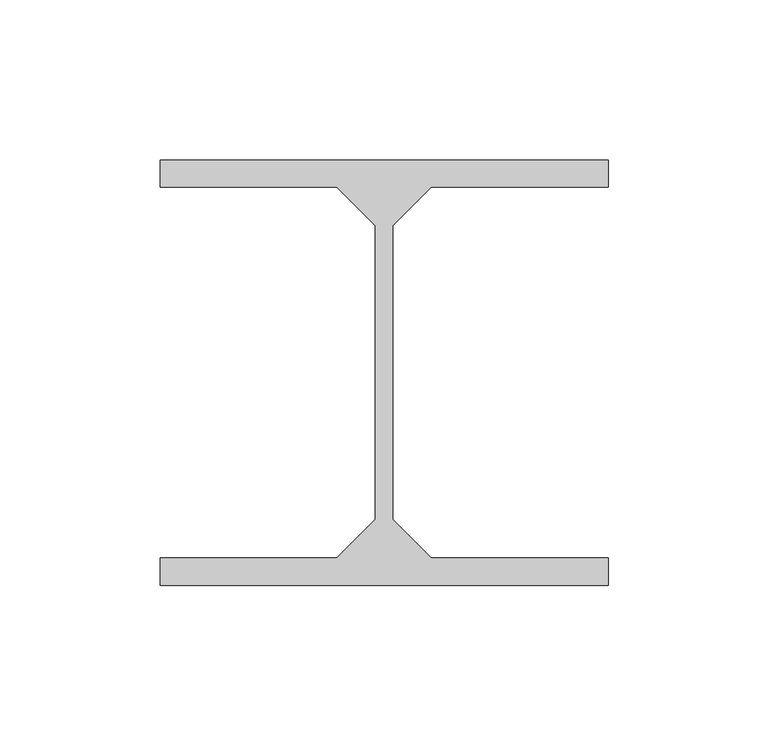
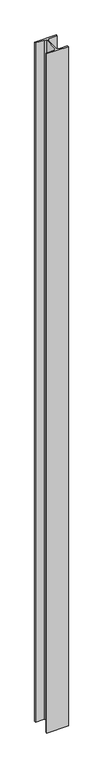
"""IFC4 building model written with IfcOpenShell, lengths in millimetres: beam geometry, Potelet : Potelet."""

from ifc_helpers import new_model, si_unit, frame, origin, place, context, project, spatial, polyline, outline, extrude, source, transform, mapped, element, save


def beam_d4a0480b(model_context):
    return source(origin(), model_context, "Body", "SweptSolid", [
        extrude(outline(polyline([(3642.4999999, -12733.5), (3782.4999999, -12733.5), (3782.4999999, -12742.0), (3727.2499999, -12742.0), (3715.2499999, -12754.0), (3715.2499999, -12846.0), (3727.2499999, -12858.0), (3782.4999999, -12858.0), (3782.4999999, -12866.5), (3642.4999999, -12866.5), (3642.4999999, -12858.0), (3697.7499999, -12858.0), (3709.7499999, -12846.0), (3709.7499999, -12754.0), (3697.7499999, -12742.0), (3642.4999999, -12742.0), (3642.4999999, -12733.5)])), frame((0.0, 0.0, 7410.0), z_axis=(0.0, 0.0, 1.0), x_axis=(1.0, 0.0, 0.0)), (0.0, 0.0, 1.0), 4627.258392),
    ])


if __name__ == "__main__":
    model = new_model("IFC4")
    model_context = context("Model", 3, world=origin())
    ifc_project = project(units=[si_unit("LENGTHUNIT", "METRE", prefix="MILLI")], contexts=[model_context])
    site = spatial("IfcSite", under=ifc_project)
    building = spatial("IfcBuilding", under=site)
    placement = place(None, origin())
    beam_shape = beam_d4a0480b(model_context)
    element("IfcBeam", 1, ObjectType="Potelet : Potelet", at=placement, inside=building, context=model_context, shape_type="MappedRepresentation", body=[
        mapped(beam_shape, transform((0.0, 0.0, 0.0), x_axis=(1.0, 0.0, 0.0), y_axis=(0.0, 1.0, 0.0), z_axis=(0.0, 0.0, 1.0))),
    ])
    save(model, "model.ifc")
